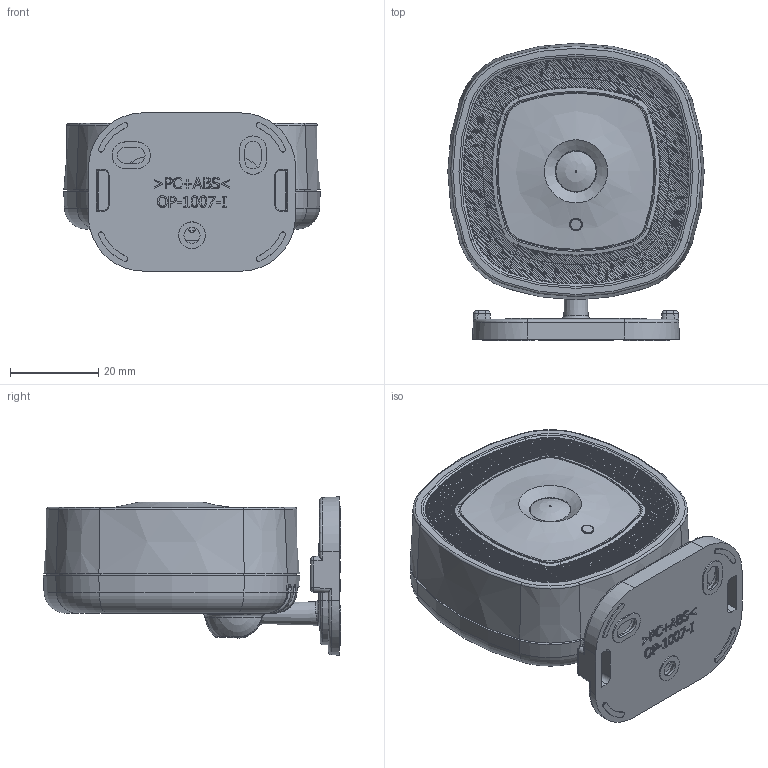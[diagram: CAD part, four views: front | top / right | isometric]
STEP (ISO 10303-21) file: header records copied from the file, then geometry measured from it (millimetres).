
FILE_DESCRIPTION(/* description */ (''),/* implementation_level */ '2;1');
FILE_NAME(/* name */ 'CR-01.step',/* time_stamp */ '2026-01-26T18:19:09+01:00',/* author */ (''),/* organization */ (''),/* preprocessor_version */ 'ST-DEVELOPER v20.1',/* originating_system */ 'Autodesk Translation Framework v14.24.0.0',/* authorisation */ '');
FILE_SCHEMA (('AUTOMOTIVE_DESIGN { 1 0 10303 214 3 1 1 }'));
Length unit declared in the file: millimetre
Products named in the file (17): PIR 7; PIR 7 gora; CR123; złącze baterii +2; złącze baterii -2; PIR sensor; PIR 7 środek; wieszak6; światłowód; dekiel7; kulka; SWITCH 6x3,6x4; S_023.05.000.00008 ocynk; S_023.05.000.00005 czarny, S_023.05.000.00004 ocynk; OP-1007-I; docisk7.2; PIR 7.1 Tył
Assembly tree (18 placements, depth 2):
  PIR 7
    PIR 7 gora
    CR123
    złącze baterii +2
    złącze baterii -2
    PIR sensor
    PIR 7 środek
    wieszak6
    światłowód
    dekiel7
    kulka
    S_023.05.000.00008 ocynk  x2
    S_023.05.000.00005 czarny, S_023.05.000.00004 ocynk  x2
    SWITCH 6x3,6x4
    OP-1007-I
    docisk7.2
    PIR 7.1 Tył
Bounding box: 58 x 67.25 x 35.8 mm (x, y, z)
Volume: 39041 mm3; surface area: 41860.7 mm2
Topology: 18 solids, 18 shells, 4179 faces, 11553 edges, 7592 vertices
Faces by surface type: plane 1686, bspline 1029, torus 861, cone 305, cylinder 285, sphere 13
Full cylindrical faces by diameter (mm): 0.3 x1, 0.66 x1, 1.4 x1, 2.2 x4, 3.8 x2, 4.8 x1, 5 x1, 6 x1, 6.3 x1, 12.5 x1, 16.7 x1
Entity records: 181099 total; most frequent: CARTESIAN_POINT 84974, ORIENTED_EDGE 22790, DIRECTION 15771, EDGE_CURVE 11395, VERTEX_POINT 7497, AXIS2_PLACEMENT_3D 5863, B_SPLINE_CURVE_WITH_KNOTS 4525, EDGE_LOOP 4378
